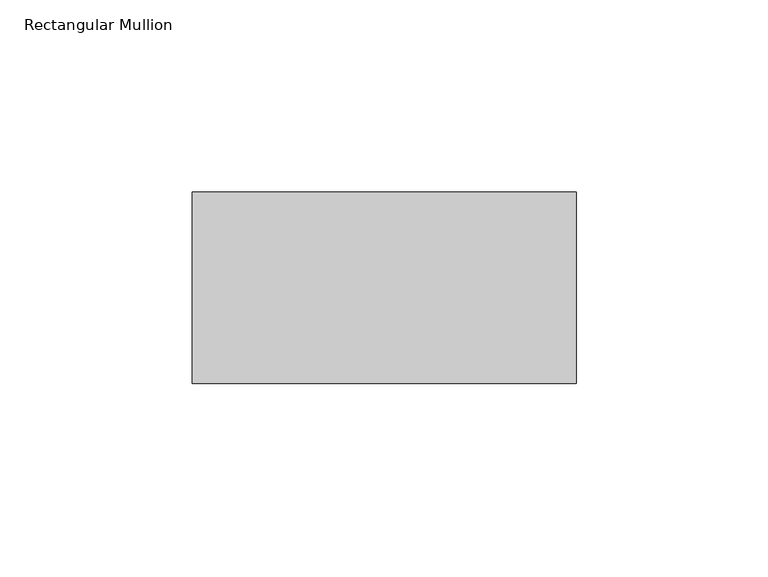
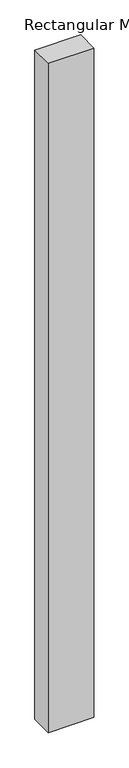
"""IFC4 building model written with IfcOpenShell, lengths in millimetres: member geometry, Rectangular Mullion : Mullion_Curtain Wall_Generic Showcase_50x100mm."""

from ifc_helpers import new_model, si_unit, frame, origin, place, context, project, spatial, polyline, outline, extrude, source, transform, mapped, element, save


def rectangular_mullion_97cb3080(model_context):
    return source(origin(), model_context, "Body", "SweptSolid", [
        extrude(outline(polyline([(0.0, 50.0), (0.0, 0.0), (-100.0, 0.0), (-100.0, 50.0), (0.0, 50.0)])), frame((0.0, 0.0, -1550.0), z_axis=(0.0, 0.0, 1.0), x_axis=(1.0, 0.0, 0.0)), (0.0, 0.0, 1.0), 1550.0),
    ])


if __name__ == "__main__":
    model = new_model("IFC4")
    model_context = context("Model", 3, world=origin())
    ifc_project = project(units=[si_unit("LENGTHUNIT", "METRE", prefix="MILLI")], contexts=[model_context])
    site = spatial("IfcSite", under=ifc_project)
    building = spatial("IfcBuilding", under=site)
    placement = place(None, origin())
    rectangular_mullion_shape = rectangular_mullion_97cb3080(model_context)
    element("IfcMember", 1, ObjectType="Rectangular Mullion : Mullion_Curtain Wall_Generic Showcase_50x100mm", at=placement, inside=building, context=model_context, shape_type="MappedRepresentation", body=[
        mapped(rectangular_mullion_shape, transform((0.0, 0.0, 0.0), x_axis=(1.0, 0.0, 0.0), y_axis=(0.0, 1.0, 0.0), z_axis=(0.0, 0.0, 1.0))),
    ])
    save(model, "model.ifc")
